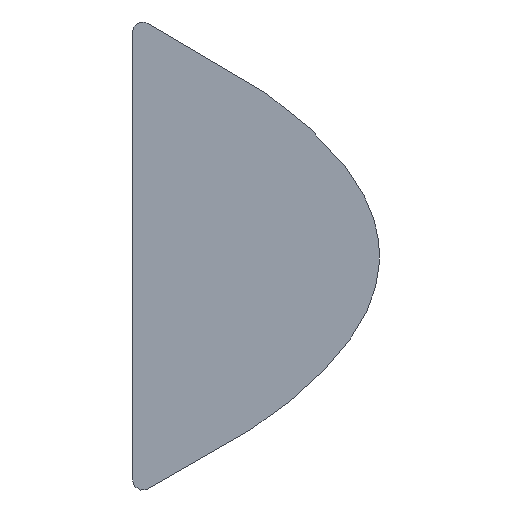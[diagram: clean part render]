
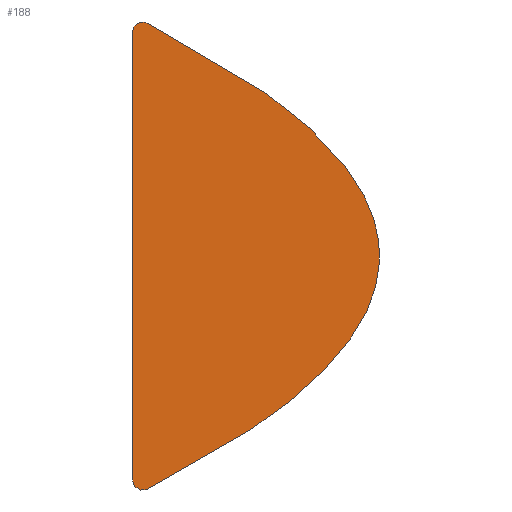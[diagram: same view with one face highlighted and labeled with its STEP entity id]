
A CAD part, left-side view. The second image highlights one B-rep face of the part: STEP entity #188.
In plain terms, the highlighted planar face has unit normal (-1, 0, 0).
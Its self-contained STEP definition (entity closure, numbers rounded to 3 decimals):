
#7 = AXIS2_PLACEMENT_3D ( 'NONE', #80, #84, #109 ) ;
#8 = AXIS2_PLACEMENT_3D ( 'NONE', #29, #209, #88 ) ;
#11 = AXIS2_PLACEMENT_3D ( 'NONE', #232, #68, #181 ) ;
#22 = CARTESIAN_POINT ( 'NONE',  ( 0., 3.357, 5.806 ) ) ;
#26 = VERTEX_POINT ( 'NONE', #110 ) ;
#29 = CARTESIAN_POINT ( 'NONE',  ( 0., 3.492, 5.538 ) ) ;
#30 = ORIENTED_EDGE ( 'NONE', *, *, #215, .T. ) ;
#33 = CARTESIAN_POINT ( 'NONE',  ( 0., 3.357, -7.765 ) ) ;
#39 = CARTESIAN_POINT ( 'NONE',  ( 0., 3.492, 5.838 ) ) ;
#43 = CIRCLE ( 'NONE', #8, 0.3 ) ;
#48 = ORIENTED_EDGE ( 'NONE', *, *, #228, .F. ) ;
#52 = PLANE ( 'NONE',  #236 ) ;
#54 = CARTESIAN_POINT ( 'NONE',  ( 0., 3.357, -7.765 ) ) ;
#59 = CARTESIAN_POINT ( 'NONE',  ( 0., 3.792, 6.02 ) ) ;
#68 = DIRECTION ( 'NONE',  ( -1., 0., 0. ) ) ;
#80 = CARTESIAN_POINT ( 'NONE',  ( 0., 3.492, 5.538 ) ) ;
#83 = ORIENTED_EDGE ( 'NONE', *, *, #224, .T. ) ;
#84 = DIRECTION ( 'NONE',  ( -1., 0., 0. ) ) ;
#88 = DIRECTION ( 'NONE',  ( 0., 0., 1. ) ) ;
#99 = CIRCLE ( 'NONE', #7, 0.3 ) ;
#100 = CIRCLE ( 'NONE', #11, 0.3 ) ;
#105 = CARTESIAN_POINT ( 'NONE',  ( 0., 3.357, 5.806 ) ) ;
#109 = DIRECTION ( 'NONE',  ( 0., 0., 1. ) ) ;
#110 = CARTESIAN_POINT ( 'NONE',  ( 0., 3.792, 5.538 ) ) ;
#113 = DIRECTION ( 'NONE',  ( 0., 0., 1. ) ) ;
#114 = DIRECTION ( 'NONE',  ( -1., 0., 0. ) ) ;
#118 = CARTESIAN_POINT ( 'NONE',  ( 0., 3.792, -7.497 ) ) ;
#123 = EDGE_CURVE ( 'NONE', #185, #26, #156, .T. ) ;
#136 = CARTESIAN_POINT ( 'NONE',  ( 0., -10.174, -0.98 ) ) ;
#143 = VERTEX_POINT ( 'NONE', #54 ) ;
#147 = VERTEX_POINT ( 'NONE', #39 ) ;
#156 = LINE ( 'NONE', #59, #197 ) ;
#164 = DIRECTION ( 'NONE',  ( 0., 0., 1. ) ) ;
#167 = EDGE_CURVE ( 'NONE', #185, #143, #100, .T. ) ;
#171 = ORIENTED_EDGE ( 'NONE', *, *, #167, .T. ) ;
#172 = ORIENTED_EDGE ( 'NONE', *, *, #123, .F. ) ;
#181 = DIRECTION ( 'NONE',  ( 0., 0., 1. ) ) ;
#182 = VERTEX_POINT ( 'NONE', #22 ) ;
#184 = EDGE_LOOP ( 'NONE', ( #172, #171, #48, #30, #83 ) ) ;
#185 = VERTEX_POINT ( 'NONE', #118 ) ;
#188 = ADVANCED_FACE ( 'NONE', ( #219 ), #52, .T. ) ;
#197 = VECTOR ( 'NONE', #113, 1000. ) ;
#207 = B_SPLINE_CURVE_WITH_KNOTS ( 'NONE', 2,
 ( #105, #136, #33 ),
 .UNSPECIFIED., .F., .F.,
 ( 3, 3 ),
 ( 0.015, 0.985 ),
 .UNSPECIFIED. ) ;
#209 = DIRECTION ( 'NONE',  ( -1., 0., 0. ) ) ;
#210 = CARTESIAN_POINT ( 'NONE',  ( 0., -3.408, -0.98 ) ) ;
#215 = EDGE_CURVE ( 'NONE', #182, #147, #99, .T. ) ;
#219 = FACE_OUTER_BOUND ( 'NONE', #184, .T. ) ;
#224 = EDGE_CURVE ( 'NONE', #147, #26, #43, .T. ) ;
#228 = EDGE_CURVE ( 'NONE', #182, #143, #207, .T. ) ;
#232 = CARTESIAN_POINT ( 'NONE',  ( 0., 3.492, -7.497 ) ) ;
#236 = AXIS2_PLACEMENT_3D ( 'NONE', #210, #114, #164 ) ;
